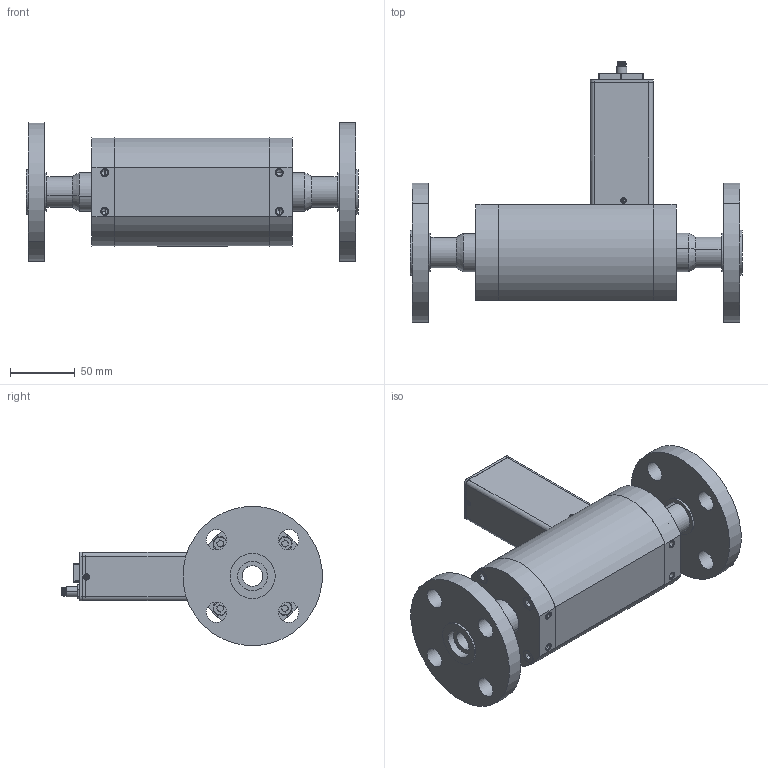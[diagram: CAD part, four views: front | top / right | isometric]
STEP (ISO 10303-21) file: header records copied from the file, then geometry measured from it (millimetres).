
FILE_DESCRIPTION (( 'STEP AP203' ), '1' );
FILE_NAME ('SLA5863-7-3G-1-A-REVB.STEP', '2024-08-20T18:04:37', ( '' ), ( '' ), 'SwSTEP 2.0', 'SolidWorks 2023', '' );
FILE_SCHEMA (( 'CONFIG_CONTROL_DESIGN' ));
Products named in the file (1): SLA5863-7-3G-1-A-REVB
Bounding box: 257 x 201.29 x 107.54 mm (x, y, z)
Volume: 453973.8 mm3; surface area: 217439.1 mm2
Topology: 43 solids, 43 shells, 1887 faces, 4959 edges, 3224 vertices
Faces by surface type: plane 1187, cylinder 447, cone 162, bspline 91
Entity records: 66701 total; most frequent: CARTESIAN_POINT 20204, ORIENTED_EDGE 9874, DIRECTION 9173, EDGE_CURVE 4937, LINE 3539, VECTOR 3539, VERTEX_POINT 3224, AXIS2_PLACEMENT_3D 2817
